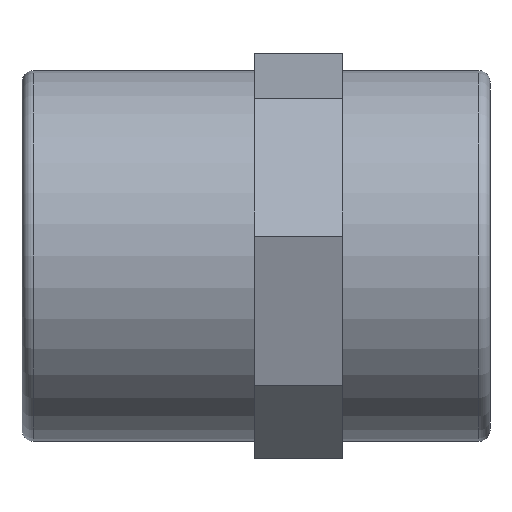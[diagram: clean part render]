
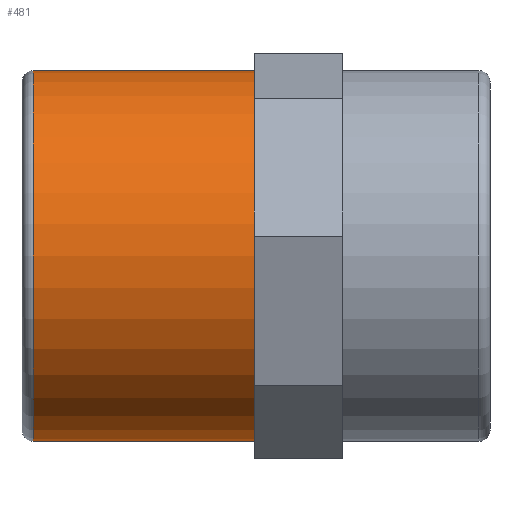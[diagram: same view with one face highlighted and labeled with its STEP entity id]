
A CAD part, front view. The second image highlights one B-rep face of the part: STEP entity #481.
In plain terms, the highlighted cylindrical face has radius 16.75 mm (diameter 33.5 mm), a full revolution.
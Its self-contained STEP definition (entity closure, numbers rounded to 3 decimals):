
#48=CYLINDRICAL_SURFACE('',#524,16.75);
#60=FACE_BOUND('',#145,.T.);
#71=CIRCLE('',#511,16.75);
#78=CIRCLE('',#525,16.75);
#104=FACE_OUTER_BOUND('',#144,.T.);
#144=EDGE_LOOP('',(#388));
#145=EDGE_LOOP('',(#389));
#237=VERTEX_POINT('',#713);
#244=VERTEX_POINT('',#734);
#291=EDGE_CURVE('',#237,#237,#71,.T.);
#298=EDGE_CURVE('',#244,#244,#78,.T.);
#388=ORIENTED_EDGE('',*,*,#291,.T.);
#389=ORIENTED_EDGE('',*,*,#298,.F.);
#481=ADVANCED_FACE('',(#104,#60),#48,.T.);
#511=AXIS2_PLACEMENT_3D('',#714,#591,#592);
#524=AXIS2_PLACEMENT_3D('',#733,#617,#618);
#525=AXIS2_PLACEMENT_3D('',#735,#619,#620);
#591=DIRECTION('center_axis',(-1.,0.,0.));
#592=DIRECTION('ref_axis',(0.,-1.,0.));
#617=DIRECTION('center_axis',(-1.,0.,0.));
#618=DIRECTION('ref_axis',(0.,-1.,0.));
#619=DIRECTION('center_axis',(-1.,0.,0.));
#620=DIRECTION('ref_axis',(0.,1.,0.));
#713=CARTESIAN_POINT('',(21.,16.75,0.));
#714=CARTESIAN_POINT('Origin',(21.,0.,0.));
#733=CARTESIAN_POINT('Origin',(21.15,0.,0.));
#734=CARTESIAN_POINT('',(1.,-16.75,0.));
#735=CARTESIAN_POINT('Origin',(1.,0.,0.));
